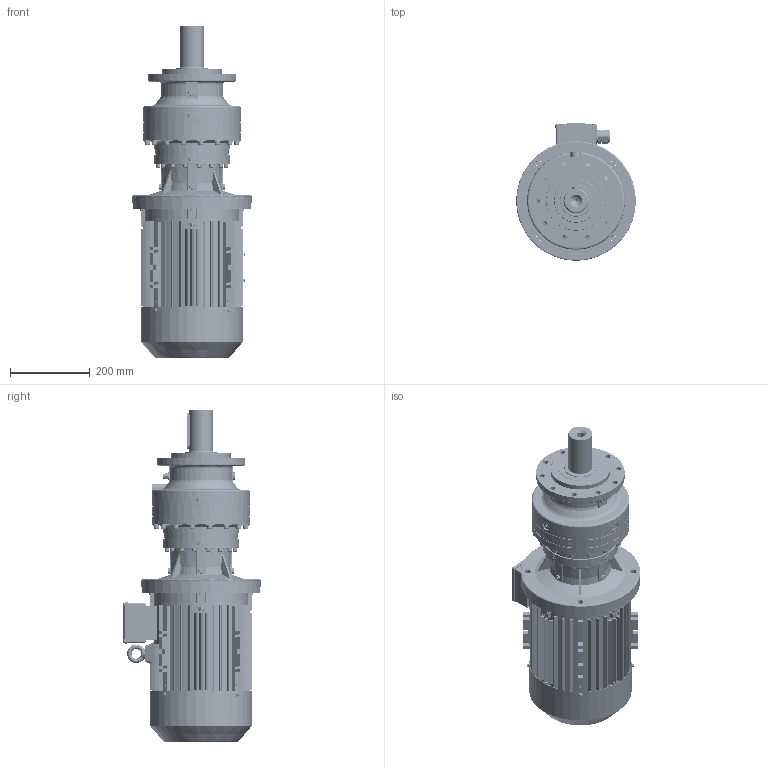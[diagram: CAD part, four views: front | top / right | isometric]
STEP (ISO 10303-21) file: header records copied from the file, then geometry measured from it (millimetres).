
FILE_DESCRIPTION (( 'STEP AP203' ), '1' );
FILE_NAME ('PVL-1502L-MX132S-4.STEP', '2019-05-13T11:22:09', ( '' ), ( '' ), 'SwSTEP 2.0', 'SolidWorks 2012', '' );
FILE_SCHEMA (( 'CONFIG_CONTROL_DESIGN' ));
Products named in the file (36): MX3-132S_B5; plain parallel keys_GB_CONNECTING_PIECE_KEYS_CSK 10X70_1; PVL-1502L-MX132S-4; cross recessed pan head screws gb_GB_CROSS_SCREWS_TYPE1 M5X8-8  H type-N_1; hexagon socket head cap screws gb_GB_FASTENER_SCREWS_HSHCS M8X45-N; DMX-IE3 132S4 fan_1; cross recessed pan head screws gb_GB_CROSS_SCREWS_TYPE1 M5X25-25  H type-N_1; DMX-IE3 132S4 grouding mark_1; cross recessed pan head screws gb_GB_CROSS_SCREWS_TYPE1 M4X6-6  H type-N_1; plain washers--product grade c gb_GB_FASTENER_WASHER_SMWC 4_1; eyebolts gb_GB_FASTENER_SCREWS_FRS M10-S_1; DMX-IE3 132S4  oil seal_1; circlips for shaft--type a large gb_GB_CONNECTING_PIECE_RING_RRA 29_1; DMX-IE3 132S4  cable glands_1; DMX-IE3 132S4   gasket for terminal box cover_1; DMX-IE3 132S4   gasket for terminal box base_1; hexagon socket head cap screws gb_GB_FASTENER_SCREWS_HSHCS M8X35-N_1; DMX-IE3 132S4  connection board_1; hex flange bolts-heavy grade b gb_GB_FASTENER_BOLT_HFBB M5X10-N_1; spring lock washers--normal type gb_GB_FASTENER_WASHER_SW 8_1; hexagon nuts grade c gb_GB_FASTENER_NUT_SNC1 M8-N_1; cross recessed pan head screws gb_GB_CROSS_SCREWS_TYPE1 M5X10-10  H type-N_1; DMX-IE3 132S4  terminal box_1; DMX-IE3 132S4   rotor2_1; DMX-IE3 132S4   terminal box cover_1; DMX-IE3 132S4   fan cover_1; DMX-IE3 132S4  casing_1; DMX-IE3 132S4  flange B3_1; DMX-IE3 132S4   rotor1_1; DMX-IE3 132S4  flange B5; EK1502L_Varsayìlan; PNL_1502L_0_0_A13_B5_ML13A_FL3A_0_0_0_0_0_0_0_0_0_0_0_M1; FL3A_Varsayìlan; P15_Varsayìlan; ML13A_Varsayìlan; 11132B5_Varsayìlan
Assembly tree (67 placements, depth 3):
  PVL-1502L-MX132S-4
    PNL_1502L_0_0_A13_B5_ML13A_FL3A_0_0_0_0_0_0_0_0_0_0_0_M1
      P15_Varsayìlan
      11132B5_Varsayìlan
      ML13A_Varsayìlan
      EK1502L_Varsayìlan
      FL3A_Varsayìlan
    MX3-132S_B5
      DMX-IE3 132S4  casing_1
      DMX-IE3 132S4  flange B5
      DMX-IE3 132S4  flange B3_1
      DMX-IE3 132S4   rotor1_1
      DMX-IE3 132S4   rotor2_1
      DMX-IE3 132S4   terminal box cover_1
      DMX-IE3 132S4  terminal box_1
      DMX-IE3 132S4   fan cover_1
      hex flange bolts-heavy grade b gb_GB_FASTENER_BOLT_HFBB M5X10-N_1  x4
      cross recessed pan head screws gb_GB_CROSS_SCREWS_TYPE1 M5X10-10  H type-N_1  x4
      hexagon nuts grade c gb_GB_FASTENER_NUT_SNC1 M8-N_1  x7
      spring lock washers--normal type gb_GB_FASTENER_WASHER_SW 8_1  x8
      hexagon socket head cap screws gb_GB_FASTENER_SCREWS_HSHCS M8X35-N_1  x5
      DMX-IE3 132S4   gasket for terminal box base_1
      DMX-IE3 132S4  connection board_1
      DMX-IE3 132S4   gasket for terminal box cover_1
      DMX-IE3 132S4  oil seal_1
      DMX-IE3 132S4  cable glands_1  x2
      circlips for shaft--type a large gb_GB_CONNECTING_PIECE_RING_RRA 29_1
      DMX-IE3 132S4 grouding mark_1
      cross recessed pan head screws gb_GB_CROSS_SCREWS_TYPE1 M4X6-6  H type-N_1  x3
      eyebolts gb_GB_FASTENER_SCREWS_FRS M10-S_1
      plain washers--product grade c gb_GB_FASTENER_WASHER_SMWC 4_1
      hexagon socket head cap screws gb_GB_FASTENER_SCREWS_HSHCS M8X45-N  x3
      DMX-IE3 132S4 fan_1
      cross recessed pan head screws gb_GB_CROSS_SCREWS_TYPE1 M5X25-25  H type-N_1  x2
      cross recessed pan head screws gb_GB_CROSS_SCREWS_TYPE1 M5X8-8  H type-N_1  x4
      plain parallel keys_GB_CONNECTING_PIECE_KEYS_CSK 10X70_1
Bounding box: 300 x 345 x 832.3 mm (x, y, z)
Volume: 16024480.5 mm3; surface area: 2450317.3 mm2
Topology: 72 solids, 74 shells, 6195 faces, 16551 edges, 10668 vertices
Faces by surface type: plane 3436, cylinder 1654, bspline 565, cone 540
Entity records: 200929 total; most frequent: CARTESIAN_POINT 57252, ORIENTED_EDGE 29606, DIRECTION 28228, EDGE_CURVE 14803, AXIS2_PLACEMENT_3D 9759, VERTEX_POINT 9630, VECTOR 8710, LINE 8710
